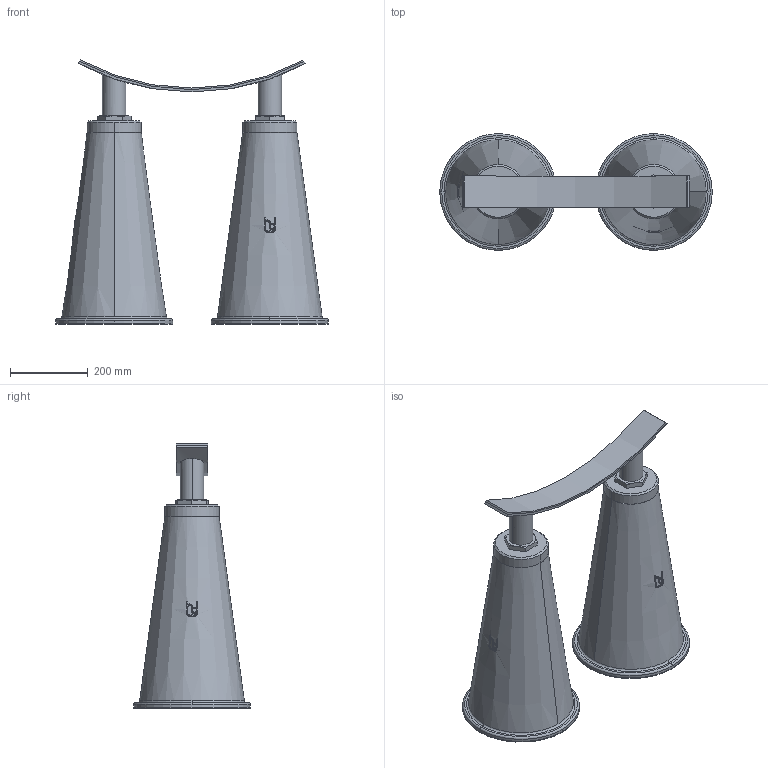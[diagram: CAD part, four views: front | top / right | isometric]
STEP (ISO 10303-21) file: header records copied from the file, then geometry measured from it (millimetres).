
FILE_DESCRIPTION(('STEP AP214'),'1');
FILE_NAME('RSRFC-DUO_DN1200.stp','2018-06-27T12:03:40',(' '),(' '),'Spatial InterOp 3D',' ',' ');
FILE_SCHEMA(('automotive_design'));
Length unit declared in the file: millimetre
Products named in the file (10): 1; 2; 3; 4; 5; 6; 7; 8; 9; 10
Bounding box: 700 x 300 x 678.83 mm (x, y, z)
Volume: 37774752.2 mm3; surface area: 1567374.3 mm2
Topology: 10 solids, 11 shells, 197 faces, 490 edges, 324 vertices
Faces by surface type: plane 82, cylinder 71, cone 36, torus 8
Entity records: 9309 total; most frequent: CARTESIAN_POINT 2865, ORIENTED_EDGE 980, DIRECTION 970, EDGE_CURVE 490, AXIS2_PLACEMENT_3D 377, VERTEX_POINT 324, LINE 216, VECTOR 216
